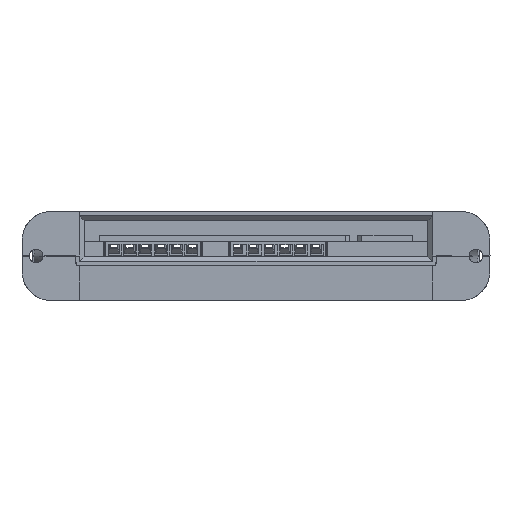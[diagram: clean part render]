
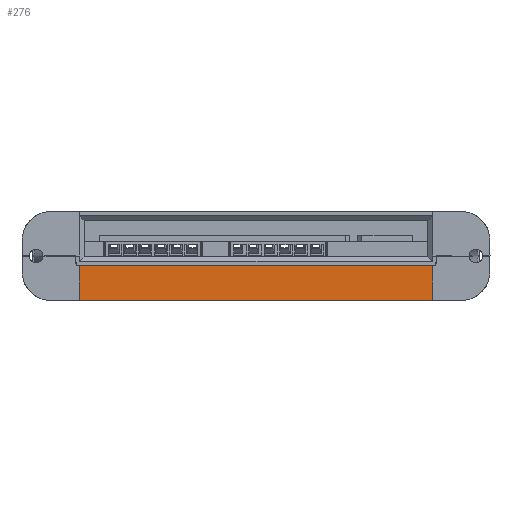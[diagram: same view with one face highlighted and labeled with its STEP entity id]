
A CAD part, left-side view. The second image highlights one B-rep face of the part: STEP entity #276.
In plain terms, the highlighted planar face has unit normal (-1, 0, -0.018).
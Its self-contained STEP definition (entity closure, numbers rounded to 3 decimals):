
#276 = ADVANCED_FACE ( 'NONE', ( #13370 ), #47557, .T. ) ;
#526 = LINE ( 'NONE', #1411, #21793 ) ;
#1411 = CARTESIAN_POINT ( 'NONE',  ( -147.394, -68.8, 11. ) ) ;
#2681 = VERTEX_POINT ( 'NONE', #14244 ) ;
#2699 = VERTEX_POINT ( 'NONE', #47680 ) ;
#3286 = EDGE_LOOP ( 'NONE', ( #27797, #47925, #39254, #24881 ) ) ;
#3920 = AXIS2_PLACEMENT_3D ( 'NONE', #10008, #39361, #14293 ) ;
#4226 = DIRECTION ( 'NONE',  ( 0., -1., 0. ) ) ;
#5661 = CARTESIAN_POINT ( 'NONE',  ( -147.394, 18.8, 11. ) ) ;
#6444 = LINE ( 'NONE', #46098, #51069 ) ;
#7967 = VERTEX_POINT ( 'NONE', #24758 ) ;
#8677 = CARTESIAN_POINT ( 'NONE',  ( -147.202, 30., 0. ) ) ;
#10008 = CARTESIAN_POINT ( 'NONE',  ( -147.394, -80., 11. ) ) ;
#11055 = VECTOR ( 'NONE', #4226, 1000. ) ;
#12583 = EDGE_CURVE ( 'NONE', #7967, #2699, #43962, .T. ) ;
#13370 = FACE_OUTER_BOUND ( 'NONE', #3286, .T. ) ;
#14244 = CARTESIAN_POINT ( 'NONE',  ( -147.202, -68.8, 0. ) ) ;
#14293 = DIRECTION ( 'NONE',  ( 0.017, 0., -1. ) ) ;
#21334 = EDGE_CURVE ( 'NONE', #7967, #2681, #22339, .T. ) ;
#21793 = VECTOR ( 'NONE', #47517, 1000. ) ;
#22339 = LINE ( 'NONE', #8677, #11055 ) ;
#24758 = CARTESIAN_POINT ( 'NONE',  ( -147.202, 18.8, 0. ) ) ;
#24881 = ORIENTED_EDGE ( 'NONE', *, *, #12583, .F. ) ;
#27797 = ORIENTED_EDGE ( 'NONE', *, *, #21334, .T. ) ;
#35611 = CARTESIAN_POINT ( 'NONE',  ( -147.352, -68.8, 8.6 ) ) ;
#37747 = DIRECTION ( 'NONE',  ( 0., 1., 0. ) ) ;
#39254 = ORIENTED_EDGE ( 'NONE', *, *, #47790, .T. ) ;
#39361 = DIRECTION ( 'NONE',  ( -1., 0., -0.017 ) ) ;
#39479 = DIRECTION ( 'NONE',  ( -0.017, 0., 1. ) ) ;
#42659 = VECTOR ( 'NONE', #39479, 1000. ) ;
#42948 = EDGE_CURVE ( 'NONE', #2681, #50927, #526, .T. ) ;
#43962 = LINE ( 'NONE', #5661, #42659 ) ;
#46098 = CARTESIAN_POINT ( 'NONE',  ( -147.352, -80., 8.6 ) ) ;
#47517 = DIRECTION ( 'NONE',  ( -0.017, 0., 1. ) ) ;
#47557 = PLANE ( 'NONE',  #3920 ) ;
#47680 = CARTESIAN_POINT ( 'NONE',  ( -147.352, 18.8, 8.6 ) ) ;
#47790 = EDGE_CURVE ( 'NONE', #50927, #2699, #6444, .T. ) ;
#47925 = ORIENTED_EDGE ( 'NONE', *, *, #42948, .T. ) ;
#50927 = VERTEX_POINT ( 'NONE', #35611 ) ;
#51069 = VECTOR ( 'NONE', #37747, 1000. ) ;
